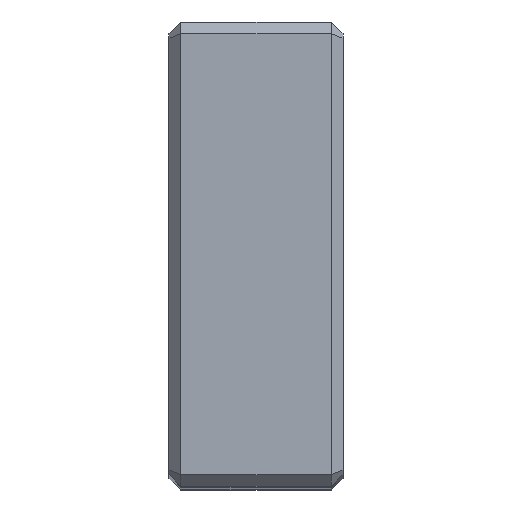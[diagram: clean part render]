
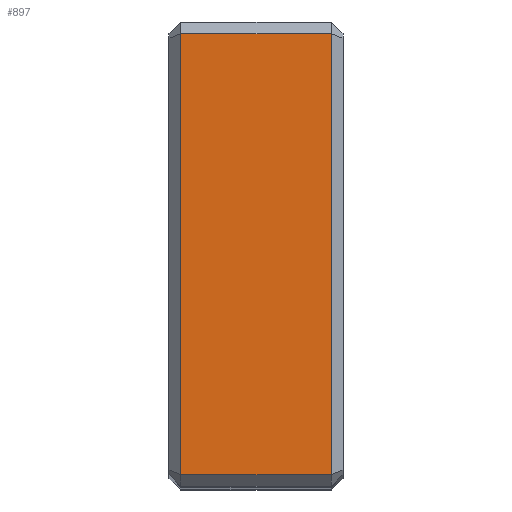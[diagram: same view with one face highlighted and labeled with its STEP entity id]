
A CAD part, top view. The second image highlights one B-rep face of the part: STEP entity #897.
In plain terms, the highlighted planar face has unit normal (0, 0, 1).
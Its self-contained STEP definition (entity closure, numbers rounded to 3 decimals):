
#4 = CARTESIAN_POINT ( 'NONE',  ( 0.4, 0.4, 37.2 ) ) ;
#20 = DIRECTION ( 'NONE',  ( 0., 1., 0. ) ) ;
#67 = DIRECTION ( 'NONE',  ( 0., -1., 0. ) ) ;
#114 = DIRECTION ( 'NONE',  ( -1., 0., 0. ) ) ;
#162 = CARTESIAN_POINT ( 'NONE',  ( 5.6, 15.6, 37.2 ) ) ;
#220 = CARTESIAN_POINT ( 'NONE',  ( 5.6, 0.4, 37.2 ) ) ;
#262 = CARTESIAN_POINT ( 'NONE',  ( 5.6, 15.6, 37.2 ) ) ;
#297 = LINE ( 'NONE', #1219, #1471 ) ;
#341 = VERTEX_POINT ( 'NONE', #220 ) ;
#348 = DIRECTION ( 'NONE',  ( -1., 0., 0. ) ) ;
#350 = EDGE_CURVE ( 'NONE', #776, #999, #1251, .T. ) ;
#396 = EDGE_LOOP ( 'NONE', ( #1440, #907, #1481, #1456 ) ) ;
#435 = EDGE_CURVE ( 'NONE', #341, #793, #1272, .T. ) ;
#449 = DIRECTION ( 'NONE',  ( 0., 1., 0. ) ) ;
#529 = FACE_OUTER_BOUND ( 'NONE', #396, .T. ) ;
#582 = EDGE_CURVE ( 'NONE', #999, #793, #297, .T. ) ;
#708 = VECTOR ( 'NONE', #114, 1000. ) ;
#776 = VERTEX_POINT ( 'NONE', #262 ) ;
#780 = PLANE ( 'NONE',  #804 ) ;
#793 = VERTEX_POINT ( 'NONE', #4 ) ;
#799 = CARTESIAN_POINT ( 'NONE',  ( 6., 0.4, 37.2 ) ) ;
#804 = AXIS2_PLACEMENT_3D ( 'NONE', #1433, #1180, #20 ) ;
#897 = ADVANCED_FACE ( 'NONE', ( #529 ), #780, .F. ) ;
#907 = ORIENTED_EDGE ( 'NONE', *, *, #582, .T. ) ;
#999 = VERTEX_POINT ( 'NONE', #1335 ) ;
#1007 = EDGE_CURVE ( 'NONE', #341, #776, #1341, .T. ) ;
#1127 = CARTESIAN_POINT ( 'NONE',  ( 6., 15.6, 37.2 ) ) ;
#1180 = DIRECTION ( 'NONE',  ( 0., 0., -1. ) ) ;
#1219 = CARTESIAN_POINT ( 'NONE',  ( 0.4, 0.4, 37.2 ) ) ;
#1251 = LINE ( 'NONE', #1127, #1664 ) ;
#1272 = LINE ( 'NONE', #799, #708 ) ;
#1335 = CARTESIAN_POINT ( 'NONE',  ( 0.4, 15.6, 37.2 ) ) ;
#1341 = LINE ( 'NONE', #162, #1455 ) ;
#1433 = CARTESIAN_POINT ( 'NONE',  ( 6., 15.6, 37.2 ) ) ;
#1440 = ORIENTED_EDGE ( 'NONE', *, *, #350, .T. ) ;
#1455 = VECTOR ( 'NONE', #449, 1000. ) ;
#1456 = ORIENTED_EDGE ( 'NONE', *, *, #1007, .T. ) ;
#1471 = VECTOR ( 'NONE', #67, 1000. ) ;
#1481 = ORIENTED_EDGE ( 'NONE', *, *, #435, .F. ) ;
#1664 = VECTOR ( 'NONE', #348, 1000. ) ;
